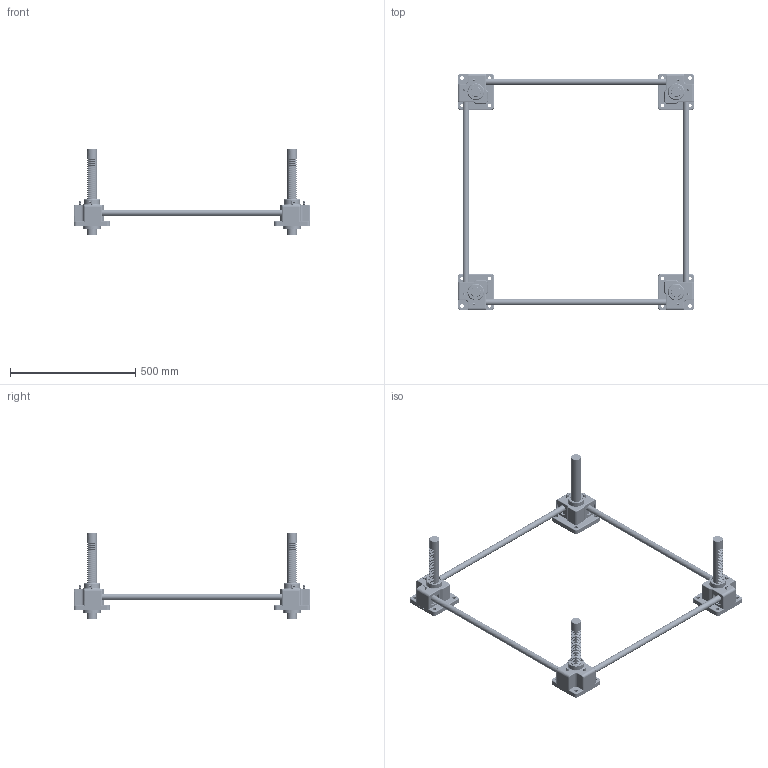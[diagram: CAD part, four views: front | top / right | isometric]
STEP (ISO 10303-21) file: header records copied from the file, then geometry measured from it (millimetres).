
FILE_DESCRIPTION(('STEP AP203'),'1');
FILE_NAME('SP3000U-800x800-200ST.stp','2022-06-15T01:57:30',(' '),(' '),'Spatial InterOp 3D',' ',' ');
FILE_SCHEMA(('CONFIG_CONTROL_DESIGN'));
Length unit declared in the file: millimetre
Products named in the file (75): SP3000U-800x800-200ST; ASSEM1; Body.1-Part; Nipple; SnapRing-58Pie; SnapRing-55Pie; 6205zz; Du Bush; Gear Box.1(NSP-3000); RJ05-4SCJ-610X600-100ST_CAP; LABEL-B.1; ___; 파트18; __; Body.2-Part; Gear Box.2(NSP-3000); Body.3-Part; Gear Box.3(NSP-3000); Body.4-Part; Gear Box.4(NSP-3000); Shaft.1; Shaft.2
Assembly tree (76 placements, depth 6):
  SP3000U-800x800-200ST
    ASSEM1
    (unnamed)
    (unnamed)
    (unnamed)
    Body.1-Part
      Nipple
      Nipple
      SnapRing-58Pie
      SnapRing-55Pie
      6205zz
      6205zz
      SnapRing-58Pie
      SnapRing-55Pie
      Du Bush
      Du Bush
      Gear Box.1(NSP-3000)
      __
        ___
          RJ05-4SCJ-610X600-100ST_CAP
            LABEL-B.1
          파트18
    Body.2-Part
      Nipple
      Nipple
      SnapRing-58Pie
      SnapRing-58Pie
      SnapRing-55Pie
      SnapRing-55Pie
      Du Bush
      Du Bush
      6205zz
      6205zz
      Gear Box.2(NSP-3000)
      __
        ___
          RJ05-4SCJ-610X600-100ST_CAP
            LABEL-B.1
          파트18
    Body.3-Part
      Nipple
      Nipple
      SnapRing-58Pie
      SnapRing-58Pie
      Du Bush
      Du Bush
      SnapRing-55Pie
      SnapRing-55Pie
      6205zz
      6205zz
      Gear Box.3(NSP-3000)
      __
        ___
          RJ05-4SCJ-610X600-100ST_CAP
            LABEL-B.1
          파트18
    Body.4-Part
      Nipple
      Nipple
      SnapRing-58Pie
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Bounding box: 945.44 x 945.44 x 342 mm (x, y, z)
Volume: 6143060.6 mm3; surface area: 1223251.3 mm2
Topology: 80 solids, 80 shells, 9322 faces, 26038 edges, 16856 vertices
Faces by surface type: plane 7736, cylinder 942, sphere 200, torus 192, cone 156, bspline 64, revolution 32
Full cylindrical faces by diameter (mm): 3.087 x16, 3.257 x16, 5.6 x8, 6 x8, 9.886 x8, 14 x16, 16 x4, 19 x8, 25 x12, 28 x8, 32.5 x16, 40 x12, 45 x4, 46.1 x16, 50 x16, 52 x16, 52.4 x8, 55 x16, 58 x8, 65 x4, 70 x4
Entity records: 300792 total; most frequent: CARTESIAN_POINT 62921, ORIENTED_EDGE 49704, DIRECTION 45506, EDGE_CURVE 24852, LINE 21420, VECTOR 21420, VERTEX_POINT 16436, AXIS2_PLACEMENT_3D 12027
